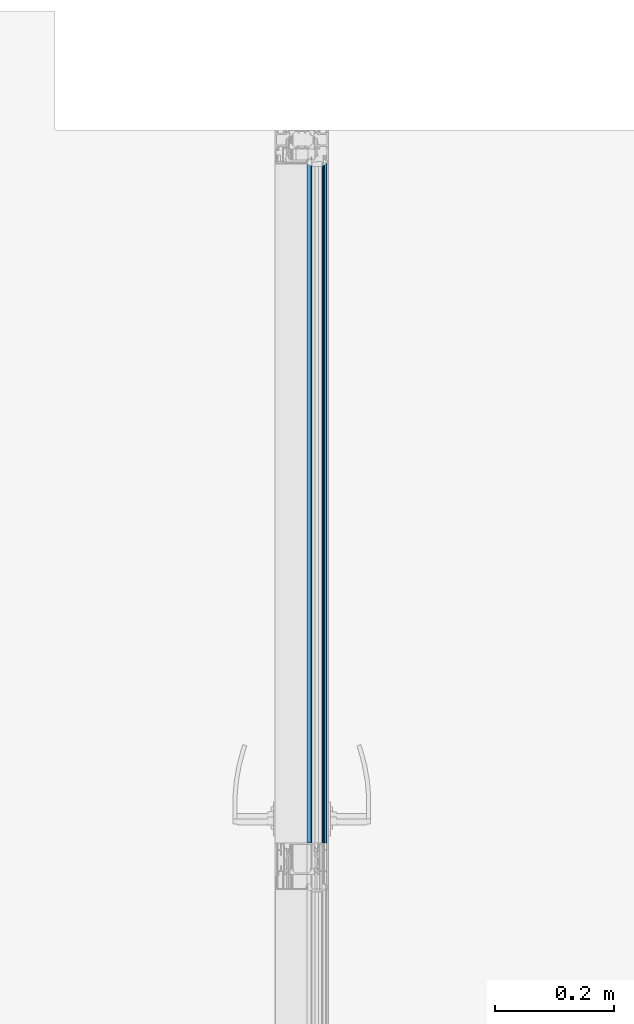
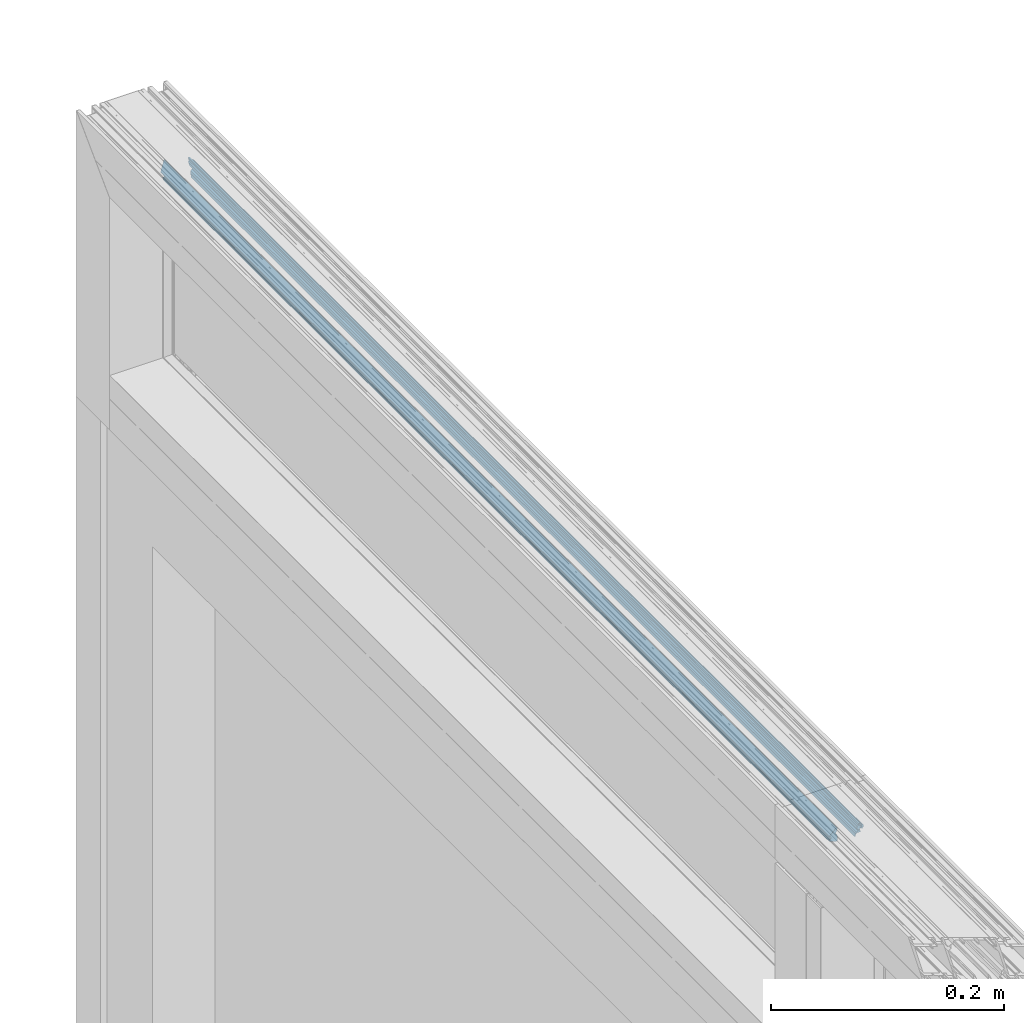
# One storey, part 20 of 65: 1 building element part, 2 elements without a shape of their own.
"""IFC2X3 building model written with IfcOpenShell, lengths in millimetres."""

from ifc_helpers import new_model, entity, si_unit, converted_unit, derived_unit, money_unit, direction, frame, origin_with_axes, place, context, subcontext, project, spatial, faceted_brep, source, transform, mapped, material, type_object, element, aggregate, save


model = new_model("IFC2X3")

# Units and contexts
model_context = context("Model", 3, precision=0.01, world=origin_with_axes(), true_north=direction((0.0, 1.0)))
body_context = subcontext(model_context, "Body", "Model", "MODEL_VIEW")
ifc_project = project(units=[si_unit("LENGTHUNIT", "METRE", prefix="MILLI"), si_unit("AREAUNIT", "SQUARE_METRE"), si_unit("VOLUMEUNIT", "CUBIC_METRE"), converted_unit("PLANEANGLEUNIT", "DEGREE", entity("IfcPlaneAngleMeasure", 0.0174532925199), si_unit("PLANEANGLEUNIT", "RADIAN"), dimensions=[0, 0, 0, 0, 0, 0, 0]), si_unit("SOLIDANGLEUNIT", "STERADIAN"), money_unit("EUR"), converted_unit("TIMEUNIT", "Year", entity("IfcTimeMeasure", 31556926.0), si_unit("TIMEUNIT", "SECOND"), dimensions=[0, 0, 1, 0, 0, 0, 0]), si_unit("MASSUNIT", "GRAM", prefix="KILO"), si_unit("THERMODYNAMICTEMPERATUREUNIT", "DEGREE_CELSIUS"), si_unit("LUMINOUSINTENSITYUNIT", "LUMEN"), si_unit("ENERGYUNIT", "JOULE", prefix="MEGA"), derived_unit("THERMALCONDUCTANCEUNIT", [(si_unit("POWERUNIT", "WATT"), 1), (si_unit("LENGTHUNIT", "METRE"), -1), (si_unit("THERMODYNAMICTEMPERATUREUNIT", "KELVIN"), -1)]), derived_unit("SPECIFICHEATCAPACITYUNIT", [(si_unit("ENERGYUNIT", "JOULE"), 1), (si_unit("MASSUNIT", "GRAM", prefix="KILO"), -1), (si_unit("THERMODYNAMICTEMPERATUREUNIT", "KELVIN"), -1)]), derived_unit("MASSDENSITYUNIT", [(si_unit("MASSUNIT", "GRAM", prefix="KILO"), 1), (si_unit("VOLUMEUNIT", "CUBIC_METRE"), -1)])], contexts=[model_context])

# Site, building, storey
site_placement = place(None, origin_with_axes())
site = spatial("IfcSite", under=ifc_project, at=site_placement, Name="Puškini 31, Narva", CompositionType="ELEMENT")
building_placement = place(site_placement, origin_with_axes())
building = spatial("IfcBuilding", under=site, at=building_placement, Name="Narva Riigigümnaasium", CompositionType="ELEMENT")
storey_placement = place(building_placement, frame((0.0, 0.0, -1320.0), z_axis=(0.0, 0.0, 1.0), x_axis=(1.0, 0.0, 0.0)))
storey = spatial("IfcBuildingStorey", under=building, at=storey_placement, Name="1.korrus -1.32", CompositionType="ELEMENT", Elevation=-1320.0)

# Curtain wall, member, building element part
curtain_wall_type = type_object("IfcCurtainWallType", Name="Curtain Wall Type", PredefinedType="NOTDEFINED")
curtain_wall_placement = place(storey_placement, frame((28354.9542923, 194209.397521, 0.0), z_axis=(0.0, 0.0, 1.0), x_axis=(1.0, 0.0, 0.0)))
curtain_wall = element("IfcCurtainWall", 1, at=curtain_wall_placement, inside=storey, type_object=curtain_wall_type, Name="G-SKLF-07")
member_type = type_object("IfcMemberType", Name="61 x 45", PredefinedType="MULLION")
member_placement = place(curtain_wall_placement, frame((0.00198791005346, 490.602478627, 2700.0), z_axis=(-4.05197719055e-06, -0.999999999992, 0.0), x_axis=(0.0, 0.0, -1.0)))
member = element("IfcMember", 2, at=member_placement, type_object=member_type, Name="G-SKLF-23", ObjectType="MULLION")
aggregate(curtain_wall, [member])
ifc_material = material(Name="Membraan - Veekindel")
shared_shape = source(origin_with_axes(), body_context, "Body", "Brep", [
    faceted_brep([(59.5800222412, 34.73794757, 59.5800222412), (59.5800222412, 34.73794757, 1200.00413105), (61.0413385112, 34.3890442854, 1200.00413105), (61.0413385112, 34.3890442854, 61.0413385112), (58.4755028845, 35.3628499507, 58.4755028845), (58.4755028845, 35.3628499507, 1200.00413105), (57.9693613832, 36.5265882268, 1200.00413105), (57.7000324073, 39.5999584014, 1200.00413105), (57.6464370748, 39.799971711, 1200.00413105), (57.5000161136, 39.946391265, 1200.00413105), (57.3000022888, 39.9999846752, 1200.00413105), (57.3000022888, 39.1999494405, 1200.00413105), (55.3000210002, 39.1999606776, 1200.00413105), (55.2330337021, 38.9499606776, 1200.00413105), (55.0500210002, 38.7669479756, 1200.00413105), (54.8000210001, 38.6999606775, 1200.00413105), (54.5500210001, 38.7669479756, 1200.00413105), (54.3670082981, 38.9499606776, 1200.00413105), (54.300021, 39.1999606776, 1200.00413105), (54.300021, 40.4999366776, 1200.00413105), (54.3402133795, 40.6499366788, 1200.00413105), (54.4500210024, 40.7597443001, 1200.00413105), (54.6000210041, 40.7999366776, 1200.00413105), (54.7000173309, 40.7999366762, 1200.00413105), (54.866675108, 40.850483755, 1200.00413105), (54.9771753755, 40.9850924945, 1200.00413105), (54.9942836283, 41.1584047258, 1200.00413105), (54.9122350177, 41.3120206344, 1200.00413105), (53.8716106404, 42.3533776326, 1200.00413105), (53.7093558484, 42.4618547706, 1200.00413105), (53.517932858, 42.4999486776, 1200.00413105), (51.8818844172, 42.4999486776, 1200.00413105), (51.6904310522, 42.4618421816, 1200.00413105), (51.5281601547, 42.3533311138, 1200.00413105), (50.4878083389, 41.3119729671, 1200.00413105), (50.4057850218, 41.1583618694, 1200.00413105), (50.4229059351, 40.9850671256, 1200.00413105), (50.5334025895, 40.8504763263, 1200.00413105), (50.7000457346, 40.7999366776, 1200.00413105), (50.80004, 40.7999366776, 1200.00413105), (50.95004, 40.7597442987, 1200.00413105), (51.0598476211, 40.6499366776, 1200.00413105), (51.10004, 40.4999366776, 1200.00413105), (51.10004, 39.1999550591, 1200.00413105), (51.0330541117, 38.9499546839, 1200.00413105), (50.8500424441, 38.7669409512, 1200.00413105), (50.6000428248, 38.699952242, 1200.00413105), (50.3500424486, 38.7669381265, 1200.00413105), (50.1670287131, 38.9499497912, 1200.00413105), (50.10004, 39.1999494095, 1200.00413105), (48.7206527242, 39.1999494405, 1200.00413105), (48.7206527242, 38.0023809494, 1200.00413105), (48.7876400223, 37.7523809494, 1200.00413105), (48.9706527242, 37.5693682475, 1200.00413105), (49.2206527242, 37.5023809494, 1200.00413105), (50.3319753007, 37.5023809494, 1200.00413105), (50.5819753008, 37.4353936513, 1200.00413105), (50.7649880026, 37.2523809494, 1200.00413105), (51.1691331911, 36.5523809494, 1200.00413105), (51.352145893, 36.3693682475, 1200.00413105), (51.602145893, 36.3023809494, 1200.00413105), (53.8391557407, 36.3023809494, 1200.00413105), (54.0891557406, 36.3693682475, 1200.00413105), (54.2721684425, 36.5523809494, 1200.00413105), (54.676313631, 37.2523809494, 1200.00413105), (54.8593263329, 37.4353936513, 1200.00413105), (55.1093263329, 37.5023809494, 1200.00413105), (55.7607444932, 37.5023809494, 1200.00413105), (55.9795989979, 37.4519392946, 1200.00413105), (56.1542959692, 37.3107917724, 1200.00413105), (56.2495873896, 37.1074172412, 1200.00413105), (56.9567944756, 35.6067920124, 1200.00413105), (58.2346494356, 34.5489145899, 1200.00413105), (59.8409257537, 34.1343131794, 1200.00413105), (60.7381535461, 33.9217644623, 1200.00413105), (61.0108941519, 33.784859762, 1200.00413105), (61.1423164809, 33.9681748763, 1200.00413105), (61.1536677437, 34.1934467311, 1200.00413105), (53.5000340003, 40.7999553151, 1200.00413105), (53.433048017, 39.44993177, 1200.00413105), (53.2500389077, 39.2669226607, 1200.00413105), (53.0000438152, 39.1999366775, 1200.00413105), (52.4000171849, 39.1999366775, 1200.00413105), (52.1500220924, 39.2669226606, 1200.00413105), (51.9670129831, 39.4499317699, 1200.00413105), (51.9000269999, 39.6999268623, 1200.00413105), (51.9000269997, 40.799955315, 1200.00413105), (51.9670118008, 41.0499459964, 1200.00413105), (52.150017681, 41.2329518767, 1200.00413105), (52.4000083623, 41.299936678, 1200.00413105), (53.0000526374, 41.299936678, 1200.00413105), (53.2500433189, 41.2329518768, 1200.00413105), (53.4330491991, 41.0499459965, 1200.00413105), (61.1536677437, 34.1934467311, 61.1536677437), (61.1423164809, 33.9681748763, 61.1423164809), (61.0108941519, 33.784859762, 61.0108941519), (60.7381535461, 33.9217644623, 60.7381535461), (59.8409257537, 34.1343131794, 59.8409257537), (58.2346494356, 34.5489145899, 58.2346494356), (56.9567944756, 35.6067920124, 56.9567944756), (56.2495873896, 37.1074172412, 56.2495873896), (56.1542959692, 37.3107917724, 56.1542959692), (55.9795989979, 37.4519392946, 55.9795989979), (55.7607444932, 37.5023809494, 55.7607444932), (55.1093263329, 37.5023809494, 55.1093263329), (54.8593263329, 37.4353936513, 54.8593263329), (54.676313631, 37.2523809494, 54.676313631), (54.2721684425, 36.5523809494, 54.2721684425), (54.0891557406, 36.3693682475, 54.0891557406), (53.8391557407, 36.3023809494, 53.8391557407), (51.602145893, 36.3023809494, 51.602145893), (51.352145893, 36.3693682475, 51.352145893), (51.1691331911, 36.5523809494, 51.1691331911), (50.7649880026, 37.2523809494, 50.7649880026), (50.5819753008, 37.4353936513, 50.5819753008), (50.3319753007, 37.5023809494, 50.3319753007), (49.2206527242, 37.5023809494, 49.2206527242), (48.9706527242, 37.5693682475, 48.9706527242), (48.7876400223, 37.7523809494, 48.7876400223), (48.7206527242, 38.0023809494, 48.7206527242), (48.7206527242, 39.1999494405, 48.7206527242), (50.10004, 39.1999494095, 50.10004), (50.1670287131, 38.9499497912, 50.1670287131), (50.3500424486, 38.7669381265, 50.3500424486), (50.6000428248, 38.699952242, 50.6000428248), (50.8500424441, 38.7669409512, 50.8500424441), (51.0330541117, 38.9499546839, 51.0330541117), (51.10004, 39.1999550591, 51.10004), (51.10004, 40.4999366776, 51.10004), (51.0598476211, 40.6499366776, 51.0598476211), (50.95004, 40.7597442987, 50.95004), (50.80004, 40.7999366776, 50.80004), (50.7000457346, 40.7999366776, 50.7000457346), (50.5334025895, 40.8504763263, 50.5334025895), (50.4229059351, 40.9850671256, 50.4229059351), (50.4057850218, 41.1583618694, 50.4057850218), (50.4878083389, 41.3119729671, 50.4878083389), (51.5281601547, 42.3533311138, 51.5281601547), (51.6904310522, 42.4618421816, 51.6904310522), (51.8818844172, 42.4999486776, 51.8818844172), (53.517932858, 42.4999486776, 53.517932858), (53.7093558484, 42.4618547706, 53.7093558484), (53.8716106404, 42.3533776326, 53.8716106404), (54.9122350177, 41.3120206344, 54.9122350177), (54.9942836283, 41.1584047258, 54.9942836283), (54.9771753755, 40.9850924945, 54.9771753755), (54.866675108, 40.850483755, 54.866675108), (54.7000173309, 40.7999366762, 54.7000173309), (54.6000210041, 40.7999366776, 54.6000210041), (54.4500210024, 40.7597443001, 54.4500210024), (54.3402133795, 40.6499366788, 54.3402133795), (54.300021, 40.4999366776, 54.300021), (54.300021, 39.1999606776, 54.300021), (54.3670082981, 38.9499606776, 54.3670082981), (54.5500210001, 38.7669479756, 54.5500210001), (54.8000210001, 38.6999606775, 54.8000210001), (55.0500210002, 38.7669479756, 55.0500210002), (55.2330337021, 38.9499606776, 55.2330337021), (55.3000210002, 39.1999606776, 55.3000210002), (57.3000022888, 39.1999494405, 57.3000022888), (57.3000022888, 39.9999846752, 57.3000022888), (57.5000161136, 39.946391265, 57.5000161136), (57.6464370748, 39.799971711, 57.6464370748), (57.7000324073, 39.5999584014, 57.7000324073), (57.9693613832, 36.5265882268, 57.9693613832), (53.5000340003, 40.7999553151, 53.5000340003), (53.4330491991, 41.0499459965, 53.4330491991), (53.2500433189, 41.2329518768, 53.2500433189), (53.0000526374, 41.299936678, 53.0000526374), (52.4000083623, 41.299936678, 52.4000083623), (52.150017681, 41.2329518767, 52.150017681), (51.9670118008, 41.0499459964, 51.9670118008), (51.9000269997, 40.799955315, 51.9000269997), (51.9000269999, 39.6999268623, 51.9000269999), (51.9670129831, 39.4499317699, 51.9670129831), (52.1500220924, 39.2669226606, 52.1500220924), (52.4000171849, 39.1999366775, 52.4000171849), (53.0000438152, 39.1999366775, 53.0000438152), (53.2500389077, 39.2669226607, 53.2500389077), (53.433048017, 39.44993177, 53.433048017)], [[[0, 1, 2, 3]], [[4, 5, 1, 0]], [[2, 1, 5, 6, 7, 8, 9, 10, 11, 12, 13, 14, 15, 16, 17, 18, 19, 20, 21, 22, 23, 24, 25, 26, 27, 28, 29, 30, 31, 32, 33, 34, 35, 36, 37, 38, 39, 40, 41, 42, 43, 44, 45, 46, 47, 48, 49, 50, 51, 52, 53, 54, 55, 56, 57, 58, 59, 60, 61, 62, 63, 64, 65, 66, 67, 68, 69, 70, 71, 72, 73, 74, 75, 76, 77], [78, 79, 80, 81, 82, 83, 84, 85, 86, 87, 88, 89, 90, 91, 92]], [[3, 2, 77, 93]], [[3, 93, 94, 95, 96, 97, 98, 99, 100, 101, 102, 103, 104, 105, 106, 107, 108, 109, 110, 111, 112, 113, 114, 115, 116, 117, 118, 119, 120, 121, 122, 123, 124, 125, 126, 127, 128, 129, 130, 131, 132, 133, 134, 135, 136, 137, 138, 139, 140, 141, 142, 143, 144, 145, 146, 147, 148, 149, 150, 151, 152, 153, 154, 155, 156, 157, 158, 159, 160, 161, 162, 163, 164, 4, 0], [165, 166, 167, 168, 169, 170, 171, 172, 173, 174, 175, 176, 177, 178, 179]], [[164, 6, 5, 4]], [[163, 7, 6, 164]], [[162, 8, 7, 163]], [[161, 9, 8, 162]], [[160, 10, 9, 161]], [[159, 11, 10, 160]], [[158, 12, 11, 159]], [[157, 13, 12, 158]], [[156, 14, 13, 157]], [[155, 15, 14, 156]], [[154, 16, 15, 155]], [[153, 17, 16, 154]], [[152, 18, 17, 153]], [[151, 19, 18, 152]], [[150, 20, 19, 151]], [[149, 21, 20, 150]], [[148, 22, 21, 149]], [[147, 23, 22, 148]], [[146, 24, 23, 147]], [[145, 25, 24, 146]], [[144, 26, 25, 145]], [[143, 27, 26, 144]], [[142, 28, 27, 143]], [[141, 29, 28, 142]], [[140, 30, 29, 141]], [[139, 31, 30, 140]], [[138, 32, 31, 139]], [[137, 33, 32, 138]], [[136, 34, 33, 137]], [[135, 35, 34, 136]], [[134, 36, 35, 135]], [[133, 37, 36, 134]], [[132, 38, 37, 133]], [[131, 39, 38, 132]], [[130, 40, 39, 131]], [[129, 41, 40, 130]], [[128, 42, 41, 129]], [[127, 43, 42, 128]], [[126, 44, 43, 127]], [[125, 45, 44, 126]], [[124, 46, 45, 125]], [[123, 47, 46, 124]], [[122, 48, 47, 123]], [[121, 49, 48, 122]], [[120, 50, 49, 121]], [[119, 51, 50, 120]], [[118, 52, 51, 119]], [[117, 53, 52, 118]], [[116, 54, 53, 117]], [[115, 55, 54, 116]], [[114, 56, 55, 115]], [[113, 57, 56, 114]], [[112, 58, 57, 113]], [[111, 59, 58, 112]], [[110, 60, 59, 111]], [[109, 61, 60, 110]], [[108, 62, 61, 109]], [[107, 63, 62, 108]], [[106, 64, 63, 107]], [[105, 65, 64, 106]], [[104, 66, 65, 105]], [[103, 67, 66, 104]], [[102, 68, 67, 103]], [[101, 69, 68, 102]], [[100, 70, 69, 101]], [[99, 71, 70, 100]], [[98, 72, 71, 99]], [[97, 73, 72, 98]], [[96, 74, 73, 97]], [[95, 75, 74, 96]], [[94, 76, 75, 95]], [[93, 77, 76, 94]], [[179, 79, 78, 165]], [[178, 80, 79, 179]], [[177, 81, 80, 178]], [[176, 82, 81, 177]], [[175, 83, 82, 176]], [[174, 84, 83, 175]], [[173, 85, 84, 174]], [[172, 86, 85, 173]], [[171, 87, 86, 172]], [[170, 88, 87, 171]], [[169, 89, 88, 170]], [[168, 90, 89, 169]], [[167, 91, 90, 168]], [[166, 92, 91, 167]], [[165, 78, 92, 166]]]),
    faceted_brep([(55.9926715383, 16.8063498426, 55.9926715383), (55.9926715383, 16.8063498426, 1200.00413105), (59.0307115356, 16.554149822, 1200.00413105), (59.0307115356, 16.554149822, 59.0307115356), (53.7899070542, 16.6230039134, 53.7899070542), (53.7899070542, 16.6230039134, 1200.00413105), (53.1225200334, 16.3483062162, 1200.00413105), (51.5205025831, 15.0099586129, 1200.00413105), (51.3011765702, 14.8998814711, 1200.00413105), (51.0558924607, 14.9074036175, 1200.00413105), (50.8437237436, 15.0307134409, 1200.00413105), (50.5536994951, 15.2121179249, 1200.00413105), (46.298307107, 16.7340705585, 1200.00413105), (45.950966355, 16.7718696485, 1200.00413105), (45.6241929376, 16.6482027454, 1200.00413105), (45.3889077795, 16.3899097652, 1200.00413105), (45.3195226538, 16.2152275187, 1200.00413105), (45.3418968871, 15.7688623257, 1200.00413105), (45.6142070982, 15.4144760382, 1200.00413105), (51.8169217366, 8.74599822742, 1200.00413105), (51.938943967, 8.6326446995, 1200.00413105), (52.1026310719, 8.60190419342, 1200.00413105), (52.2574645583, 8.66326410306, 1200.00413105), (52.3556584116, 8.79778701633, 1200.00413105), (52.7761212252, 9.95299910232, 1200.00413105), (52.8859560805, 10.0961386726, 1200.00413105), (53.0580290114, 10.1503930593, 1200.00413105), (55.1123574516, 10.1503930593, 1200.00413105), (55.2731258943, 10.1036784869, 1200.00413105), (55.3838261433, 9.9780831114, 1200.00413105), (55.4099827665, 9.81272116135, 1200.00413105), (55.2940485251, 8.85237785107, 1200.00413105), (55.3307332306, 8.72753828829, 1200.00413105), (55.4168250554, 8.62997353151, 1200.00413105), (55.5361285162, 8.57803733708, 1200.00413105), (56.9361285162, 8.30590490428, 1200.00413105), (57.0661058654, 8.3093438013, 1200.00413105), (57.1824204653, 8.36745448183, 1200.00413105), (57.2632233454, 8.46932121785, 1200.00413105), (57.5418652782, 10.0035930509, 1200.00413105), (59.3405112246, 15.0012955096, 1200.00413105), (59.5001582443, 15.5494067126, 1200.00413105), (59.3884652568, 16.1092618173, 1200.00413105), (59.3884652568, 16.1092618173, 59.3884652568), (59.5001582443, 15.5494067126, 59.5001582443), (59.3405112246, 15.0012955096, 59.3405112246), (57.5418652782, 10.0035930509, 57.5418652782), (57.2632233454, 8.46932121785, 57.2632233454), (57.1824204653, 8.36745448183, 57.1824204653), (57.0661058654, 8.3093438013, 57.0661058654), (56.9361285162, 8.30590490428, 56.9361285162), (55.5361285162, 8.57803733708, 55.5361285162), (55.4168250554, 8.62997353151, 55.4168250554), (55.3307332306, 8.72753828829, 55.3307332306), (55.2940485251, 8.85237785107, 55.2940485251), (55.4099827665, 9.81272116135, 55.4099827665), (55.3838261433, 9.9780831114, 55.3838261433), (55.2731258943, 10.1036784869, 55.2731258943), (55.1123574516, 10.1503930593, 55.1123574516), (53.0580290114, 10.1503930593, 53.0580290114), (52.8859560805, 10.0961386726, 52.8859560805), (52.7761212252, 9.95299910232, 52.7761212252), (52.3556584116, 8.79778701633, 52.3556584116), (52.2574645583, 8.66326410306, 52.2574645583), (52.1026310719, 8.60190419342, 52.1026310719), (51.938943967, 8.6326446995, 51.938943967), (51.8169217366, 8.74599822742, 51.8169217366), (45.6142070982, 15.4144760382, 45.6142070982), (45.3418968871, 15.7688623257, 45.3418968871), (45.3195226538, 16.2152275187, 45.3195226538), (45.3889077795, 16.3899097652, 45.3889077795), (45.6241929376, 16.6482027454, 45.6241929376), (45.950966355, 16.7718696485, 45.950966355), (46.298307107, 16.7340705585, 46.298307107), (50.5536994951, 15.2121179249, 50.5536994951), (50.8437237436, 15.0307134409, 50.8437237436), (51.0558924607, 14.9074036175, 51.0558924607), (51.3011765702, 14.8998814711, 51.3011765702), (51.5205025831, 15.0099586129, 51.5205025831), (53.1225200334, 16.3483062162, 53.1225200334)], [[[0, 1, 2, 3]], [[4, 5, 1, 0]], [[2, 1, 5, 6, 7, 8, 9, 10, 11, 12, 13, 14, 15, 16, 17, 18, 19, 20, 21, 22, 23, 24, 25, 26, 27, 28, 29, 30, 31, 32, 33, 34, 35, 36, 37, 38, 39, 40, 41, 42]], [[3, 2, 42, 43]], [[3, 43, 44, 45, 46, 47, 48, 49, 50, 51, 52, 53, 54, 55, 56, 57, 58, 59, 60, 61, 62, 63, 64, 65, 66, 67, 68, 69, 70, 71, 72, 73, 74, 75, 76, 77, 78, 79, 4, 0]], [[79, 6, 5, 4]], [[78, 7, 6, 79]], [[77, 8, 7, 78]], [[76, 9, 8, 77]], [[75, 10, 9, 76]], [[74, 11, 10, 75]], [[73, 12, 11, 74]], [[72, 13, 12, 73]], [[71, 14, 13, 72]], [[70, 15, 14, 71]], [[69, 16, 15, 70]], [[68, 17, 16, 69]], [[67, 18, 17, 68]], [[66, 19, 18, 67]], [[65, 20, 19, 66]], [[64, 21, 20, 65]], [[63, 22, 21, 64]], [[62, 23, 22, 63]], [[61, 24, 23, 62]], [[60, 25, 24, 61]], [[59, 26, 25, 60]], [[58, 27, 26, 59]], [[57, 28, 27, 58]], [[56, 29, 28, 57]], [[55, 30, 29, 56]], [[54, 31, 30, 55]], [[53, 32, 31, 54]], [[52, 33, 32, 53]], [[51, 34, 33, 52]], [[50, 35, 34, 51]], [[49, 36, 35, 50]], [[48, 37, 36, 49]], [[47, 38, 37, 48]], [[46, 39, 38, 47]], [[45, 40, 39, 46]], [[44, 41, 40, 45]], [[43, 42, 41, 44]]]),
])
building_element_part_placement = place(member_placement, origin_with_axes())
building_element_part = element("IfcBuildingElementPart", 3, at=building_element_part_placement, material=ifc_material, Name="Membraan - Veekindel", context=body_context, shape_type="MappedRepresentation", body=[
    mapped(shared_shape, transform((0.0, 0.0, 0.0))),
])
aggregate(member, [building_element_part])

save(model, "model.ifc")
